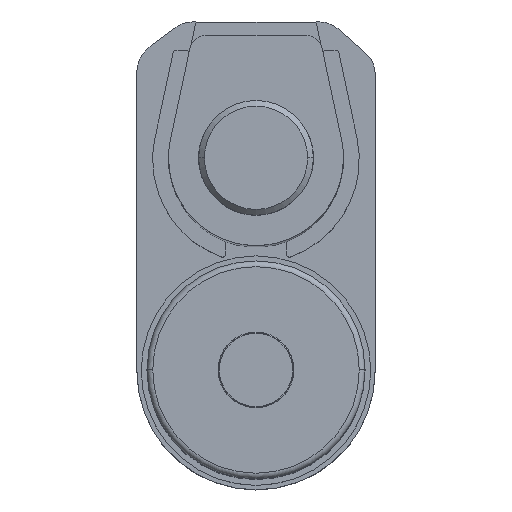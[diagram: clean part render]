
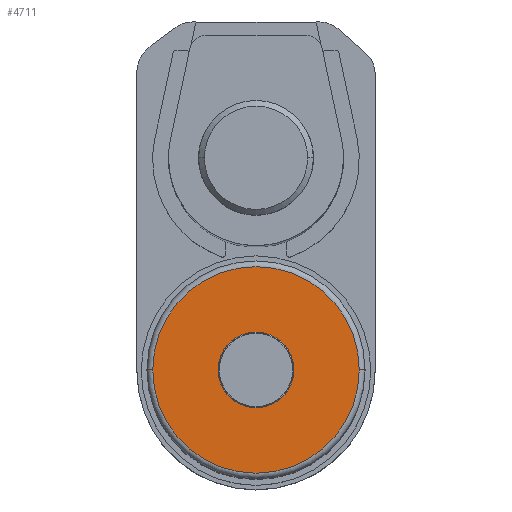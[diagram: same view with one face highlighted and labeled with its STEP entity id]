
A CAD part, top view. The second image highlights one B-rep face of the part: STEP entity #4711.
In plain terms, the highlighted planar face has unit normal (0, 0, 1).
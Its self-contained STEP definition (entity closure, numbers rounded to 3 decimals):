
#36 = EDGE_CURVE ( 'NONE', #175, #970, #1212, .T. ) ;
#175 = VERTEX_POINT ( 'NONE', #1528 ) ;
#314 = FACE_OUTER_BOUND ( 'NONE', #643, .T. ) ;
#643 = EDGE_LOOP ( 'NONE', ( #4692, #5566 ) ) ;
#748 = EDGE_CURVE ( 'NONE', #4262, #2149, #1819, .T. ) ;
#970 = VERTEX_POINT ( 'NONE', #3549 ) ;
#990 = CIRCLE ( 'NONE', #5127, 18. ) ;
#1212 = CIRCLE ( 'NONE', #2200, 18. ) ;
#1219 = CARTESIAN_POINT ( 'NONE',  ( 0., -20.751, 93. ) ) ;
#1251 = CARTESIAN_POINT ( 'NONE',  ( 0., -20.751, 93. ) ) ;
#1496 = ORIENTED_EDGE ( 'NONE', *, *, #5367, .T. ) ;
#1528 = CARTESIAN_POINT ( 'NONE',  ( -18., -20.751, 93. ) ) ;
#1645 = DIRECTION ( 'NONE',  ( 1., 0., 0. ) ) ;
#1665 = DIRECTION ( 'NONE',  ( 1., 0., 0. ) ) ;
#1668 = PLANE ( 'NONE',  #5094 ) ;
#1692 = DIRECTION ( 'NONE',  ( 0., 0., 1. ) ) ;
#1819 = CIRCLE ( 'NONE', #5203, 6.6 ) ;
#2028 = CIRCLE ( 'NONE', #2736, 6.6 ) ;
#2045 = EDGE_LOOP ( 'NONE', ( #2783, #1496 ) ) ;
#2109 = CARTESIAN_POINT ( 'NONE',  ( 0., -20.751, 93. ) ) ;
#2149 = VERTEX_POINT ( 'NONE', #4268 ) ;
#2200 = AXIS2_PLACEMENT_3D ( 'NONE', #3559, #3598, #4321 ) ;
#2294 = CARTESIAN_POINT ( 'NONE',  ( 0., -20.751, 93. ) ) ;
#2674 = CARTESIAN_POINT ( 'NONE',  ( 6.6, -20.751, 93. ) ) ;
#2736 = AXIS2_PLACEMENT_3D ( 'NONE', #2294, #5341, #2743 ) ;
#2743 = DIRECTION ( 'NONE',  ( 1., 0., 0. ) ) ;
#2783 = ORIENTED_EDGE ( 'NONE', *, *, #748, .T. ) ;
#2846 = FACE_BOUND ( 'NONE', #2045, .T. ) ;
#3549 = CARTESIAN_POINT ( 'NONE',  ( 18., -20.751, 93. ) ) ;
#3559 = CARTESIAN_POINT ( 'NONE',  ( 0., -20.751, 93. ) ) ;
#3598 = DIRECTION ( 'NONE',  ( 0., 0., 1. ) ) ;
#4023 = EDGE_CURVE ( 'NONE', #970, #175, #990, .T. ) ;
#4245 = DIRECTION ( 'NONE',  ( 0., 0., 1. ) ) ;
#4262 = VERTEX_POINT ( 'NONE', #2674 ) ;
#4268 = CARTESIAN_POINT ( 'NONE',  ( -6.6, -20.751, 93. ) ) ;
#4273 = DIRECTION ( 'NONE',  ( 0., 0., -1. ) ) ;
#4321 = DIRECTION ( 'NONE',  ( 1., 0., 0. ) ) ;
#4692 = ORIENTED_EDGE ( 'NONE', *, *, #4023, .T. ) ;
#4711 = ADVANCED_FACE ( 'NONE', ( #2846, #314 ), #1668, .T. ) ;
#4725 = DIRECTION ( 'NONE',  ( 1., 0., 0. ) ) ;
#5094 = AXIS2_PLACEMENT_3D ( 'NONE', #2109, #1692, #4725 ) ;
#5127 = AXIS2_PLACEMENT_3D ( 'NONE', #1219, #4245, #1645 ) ;
#5203 = AXIS2_PLACEMENT_3D ( 'NONE', #1251, #4273, #1665 ) ;
#5341 = DIRECTION ( 'NONE',  ( 0., 0., -1. ) ) ;
#5367 = EDGE_CURVE ( 'NONE', #2149, #4262, #2028, .T. ) ;
#5566 = ORIENTED_EDGE ( 'NONE', *, *, #36, .T. ) ;
